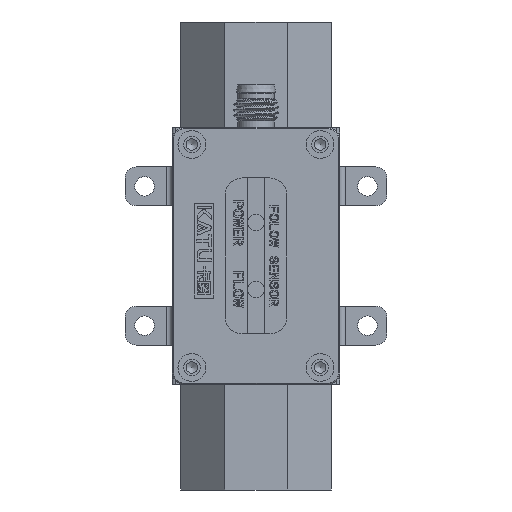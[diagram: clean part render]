
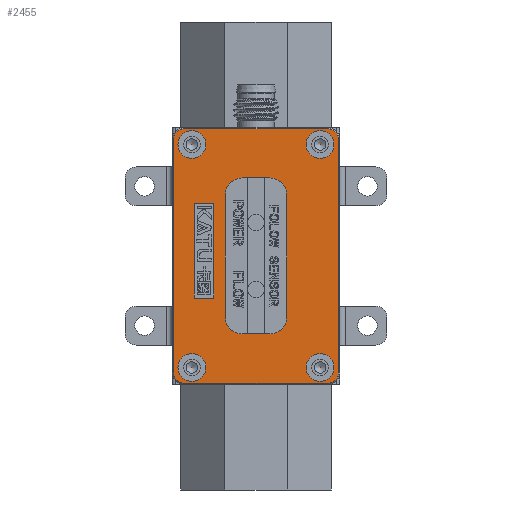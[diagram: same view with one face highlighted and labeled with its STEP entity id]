
A CAD part, front view. The second image highlights one B-rep face of the part: STEP entity #2455.
In plain terms, the highlighted planar face has unit normal (0, -1, 0).
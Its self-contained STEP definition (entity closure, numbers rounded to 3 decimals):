
#937=FACE_BOUND('',#5741,.T.);
#938=FACE_BOUND('',#5742,.T.);
#939=FACE_BOUND('',#5743,.T.);
#940=FACE_BOUND('',#5744,.T.);
#941=FACE_BOUND('',#5745,.T.);
#942=FACE_BOUND('',#5746,.T.);
#943=FACE_BOUND('',#5747,.T.);
#1803=CIRCLE('',#24379,3.);
#1804=CIRCLE('',#24380,3.);
#1805=CIRCLE('',#24381,3.);
#1806=CIRCLE('',#24382,3.);
#1807=CIRCLE('',#24383,1.8);
#1808=CIRCLE('',#24384,1.8);
#1809=CIRCLE('',#24385,1.8);
#1810=CIRCLE('',#24386,1.8);
#1811=CIRCLE('',#24387,2.5);
#1812=CIRCLE('',#24388,2.5);
#1813=CIRCLE('',#24389,2.5);
#1814=CIRCLE('',#24390,2.5);
#2455=ADVANCED_FACE('',(#937,#938,#939,#940,#941,#942,#943),#3701,.F.);
#3701=PLANE('',#24391);
#5741=EDGE_LOOP('',(#8172,#8173,#8174,#8175,#8176,#8177,#8178,#8179));
#5742=EDGE_LOOP('',(#8180,#8181,#8182,#8183,#8184,#8185,#8186,#8187));
#5743=EDGE_LOOP('',(#8188));
#5744=EDGE_LOOP('',(#8189));
#5745=EDGE_LOOP('',(#8190));
#5746=EDGE_LOOP('',(#8191));
#5747=EDGE_LOOP('',(#8192,#8193,#8194,#8195));
#8172=ORIENTED_EDGE('',*,*,#16599,.F.);
#8173=ORIENTED_EDGE('',*,*,#16600,.F.);
#8174=ORIENTED_EDGE('',*,*,#16601,.F.);
#8175=ORIENTED_EDGE('',*,*,#16602,.F.);
#8176=ORIENTED_EDGE('',*,*,#16603,.F.);
#8177=ORIENTED_EDGE('',*,*,#16604,.F.);
#8178=ORIENTED_EDGE('',*,*,#16605,.F.);
#8179=ORIENTED_EDGE('',*,*,#16606,.F.);
#8180=ORIENTED_EDGE('',*,*,#16607,.T.);
#8181=ORIENTED_EDGE('',*,*,#16608,.T.);
#8182=ORIENTED_EDGE('',*,*,#16609,.T.);
#8183=ORIENTED_EDGE('',*,*,#16610,.T.);
#8184=ORIENTED_EDGE('',*,*,#16611,.T.);
#8185=ORIENTED_EDGE('',*,*,#16612,.T.);
#8186=ORIENTED_EDGE('',*,*,#16613,.T.);
#8187=ORIENTED_EDGE('',*,*,#16614,.T.);
#8188=ORIENTED_EDGE('',*,*,#16615,.T.);
#8189=ORIENTED_EDGE('',*,*,#16616,.T.);
#8190=ORIENTED_EDGE('',*,*,#16617,.T.);
#8191=ORIENTED_EDGE('',*,*,#16618,.T.);
#8192=ORIENTED_EDGE('',*,*,#16619,.F.);
#8193=ORIENTED_EDGE('',*,*,#16620,.F.);
#8194=ORIENTED_EDGE('',*,*,#16621,.F.);
#8195=ORIENTED_EDGE('',*,*,#16622,.F.);
#14218=VERTEX_POINT('',#33486);
#14219=VERTEX_POINT('',#33487);
#14220=VERTEX_POINT('',#33489);
#14221=VERTEX_POINT('',#33491);
#14222=VERTEX_POINT('',#33493);
#14223=VERTEX_POINT('',#33495);
#14224=VERTEX_POINT('',#33497);
#14225=VERTEX_POINT('',#33499);
#14226=VERTEX_POINT('',#33502);
#14227=VERTEX_POINT('',#33503);
#14228=VERTEX_POINT('',#33505);
#14229=VERTEX_POINT('',#33507);
#14230=VERTEX_POINT('',#33509);
#14231=VERTEX_POINT('',#33511);
#14232=VERTEX_POINT('',#33513);
#14233=VERTEX_POINT('',#33515);
#14234=VERTEX_POINT('',#33518);
#14235=VERTEX_POINT('',#33520);
#14236=VERTEX_POINT('',#33522);
#14237=VERTEX_POINT('',#33524);
#14238=VERTEX_POINT('',#33526);
#14239=VERTEX_POINT('',#33527);
#14240=VERTEX_POINT('',#33529);
#14241=VERTEX_POINT('',#33531);
#16599=EDGE_CURVE('',#14218,#14219,#19721,.T.);
#16600=EDGE_CURVE('',#14220,#14218,#1803,.T.);
#16601=EDGE_CURVE('',#14221,#14220,#19722,.T.);
#16602=EDGE_CURVE('',#14222,#14221,#1804,.T.);
#16603=EDGE_CURVE('',#14223,#14222,#19723,.T.);
#16604=EDGE_CURVE('',#14224,#14223,#1805,.T.);
#16605=EDGE_CURVE('',#14225,#14224,#19724,.T.);
#16606=EDGE_CURVE('',#14219,#14225,#1806,.T.);
#16607=EDGE_CURVE('',#14226,#14227,#19725,.T.);
#16608=EDGE_CURVE('',#14227,#14228,#1807,.T.);
#16609=EDGE_CURVE('',#14228,#14229,#19726,.T.);
#16610=EDGE_CURVE('',#14229,#14230,#1808,.T.);
#16611=EDGE_CURVE('',#14230,#14231,#19727,.T.);
#16612=EDGE_CURVE('',#14231,#14232,#1809,.T.);
#16613=EDGE_CURVE('',#14232,#14233,#19728,.T.);
#16614=EDGE_CURVE('',#14233,#14226,#1810,.T.);
#16615=EDGE_CURVE('',#14234,#14234,#1811,.T.);
#16616=EDGE_CURVE('',#14235,#14235,#1812,.T.);
#16617=EDGE_CURVE('',#14236,#14236,#1813,.T.);
#16618=EDGE_CURVE('',#14237,#14237,#1814,.T.);
#16619=EDGE_CURVE('',#14238,#14239,#19729,.T.);
#16620=EDGE_CURVE('',#14240,#14238,#19730,.T.);
#16621=EDGE_CURVE('',#14241,#14240,#19731,.T.);
#16622=EDGE_CURVE('',#14239,#14241,#19732,.T.);
#19721=LINE('',#33485,#22085);
#19722=LINE('',#33490,#22086);
#19723=LINE('',#33494,#22087);
#19724=LINE('',#33498,#22088);
#19725=LINE('',#33501,#22089);
#19726=LINE('',#33506,#22090);
#19727=LINE('',#33510,#22091);
#19728=LINE('',#33514,#22092);
#19729=LINE('',#33525,#22093);
#19730=LINE('',#33528,#22094);
#19731=LINE('',#33530,#22095);
#19732=LINE('',#33532,#22096);
#22085=VECTOR('',#26899,1.);
#22086=VECTOR('',#26902,1.);
#22087=VECTOR('',#26905,1.);
#22088=VECTOR('',#26908,1.);
#22089=VECTOR('',#26911,1.);
#22090=VECTOR('',#26914,1.);
#22091=VECTOR('',#26917,1.);
#22092=VECTOR('',#26920,1.);
#22093=VECTOR('',#26931,1.);
#22094=VECTOR('',#26932,1.);
#22095=VECTOR('',#26933,1.);
#22096=VECTOR('',#26934,1.);
#24379=AXIS2_PLACEMENT_3D('',#33488,#26900,#26901);
#24380=AXIS2_PLACEMENT_3D('',#33492,#26903,#26904);
#24381=AXIS2_PLACEMENT_3D('',#33496,#26906,#26907);
#24382=AXIS2_PLACEMENT_3D('',#33500,#26909,#26910);
#24383=AXIS2_PLACEMENT_3D('',#33504,#26912,#26913);
#24384=AXIS2_PLACEMENT_3D('',#33508,#26915,#26916);
#24385=AXIS2_PLACEMENT_3D('',#33512,#26918,#26919);
#24386=AXIS2_PLACEMENT_3D('',#33516,#26921,#26922);
#24387=AXIS2_PLACEMENT_3D('',#33517,#26923,#26924);
#24388=AXIS2_PLACEMENT_3D('',#33519,#26925,#26926);
#24389=AXIS2_PLACEMENT_3D('',#33521,#26927,#26928);
#24390=AXIS2_PLACEMENT_3D('',#33523,#26929,#26930);
#24391=AXIS2_PLACEMENT_3D('',#33533,#26935,#26936);
#26899=DIRECTION('',(0.,0.,-1.));
#26900=DIRECTION('',(0.,-1.,0.));
#26901=DIRECTION('',(0.,0.,1.));
#26902=DIRECTION('',(-1.,0.,0.));
#26903=DIRECTION('',(0.,-1.,0.));
#26904=DIRECTION('',(0.,0.,1.));
#26905=DIRECTION('',(0.,0.,1.));
#26906=DIRECTION('',(0.,-1.,0.));
#26907=DIRECTION('',(0.,0.,1.));
#26908=DIRECTION('',(1.,0.,0.));
#26909=DIRECTION('',(0.,-1.,0.));
#26910=DIRECTION('',(0.,0.,1.));
#26911=DIRECTION('',(0.,0.,-1.));
#26912=DIRECTION('',(0.,-1.,0.));
#26913=DIRECTION('',(0.,0.,1.));
#26914=DIRECTION('',(1.,0.,0.));
#26915=DIRECTION('',(0.,-1.,0.));
#26916=DIRECTION('',(0.,0.,1.));
#26917=DIRECTION('',(0.,0.,1.));
#26918=DIRECTION('',(0.,-1.,0.));
#26919=DIRECTION('',(0.,0.,1.));
#26920=DIRECTION('',(-1.,0.,0.));
#26921=DIRECTION('',(0.,-1.,0.));
#26922=DIRECTION('',(0.,0.,1.));
#26923=DIRECTION('',(0.,1.,0.));
#26924=DIRECTION('',(0.,0.,1.));
#26925=DIRECTION('',(0.,1.,0.));
#26926=DIRECTION('',(0.,0.,1.));
#26927=DIRECTION('',(0.,1.,0.));
#26928=DIRECTION('',(0.,0.,1.));
#26929=DIRECTION('',(0.,1.,0.));
#26930=DIRECTION('',(0.,0.,1.));
#26931=DIRECTION('',(0.,0.,-1.));
#26932=DIRECTION('',(-1.,0.,0.));
#26933=DIRECTION('',(0.,0.,1.));
#26934=DIRECTION('',(1.,0.,0.));
#26935=DIRECTION('',(0.,1.,0.));
#26936=DIRECTION('',(0.,0.,1.));
#33485=CARTESIAN_POINT('',(-3.,-33.,21.));
#33486=CARTESIAN_POINT('',(-3.,-33.,21.));
#33487=CARTESIAN_POINT('',(-3.,-33.,-1.));
#33488=CARTESIAN_POINT('',(0.,-33.,21.));
#33489=CARTESIAN_POINT('',(0.,-33.,24.));
#33490=CARTESIAN_POINT('',(3.5,-33.,24.));
#33491=CARTESIAN_POINT('',(5.,-33.,24.));
#33492=CARTESIAN_POINT('',(5.,-33.,21.));
#33493=CARTESIAN_POINT('',(8.,-33.,21.));
#33494=CARTESIAN_POINT('',(8.,-33.,-1.));
#33495=CARTESIAN_POINT('',(8.,-33.,-1.));
#33496=CARTESIAN_POINT('',(5.,-33.,-1.));
#33497=CARTESIAN_POINT('',(5.,-33.,-4.));
#33498=CARTESIAN_POINT('',(1.5,-33.,-4.));
#33499=CARTESIAN_POINT('',(0.,-33.,-4.));
#33500=CARTESIAN_POINT('',(0.,-33.,-1.));
#33501=CARTESIAN_POINT('',(-12.3,-33.,-11.));
#33502=CARTESIAN_POINT('',(-12.3,-33.,31.));
#33503=CARTESIAN_POINT('',(-12.3,-33.,-11.));
#33504=CARTESIAN_POINT('',(-10.5,-33.,-11.));
#33505=CARTESIAN_POINT('',(-10.5,-33.,-12.8));
#33506=CARTESIAN_POINT('',(15.5,-33.,-12.8));
#33507=CARTESIAN_POINT('',(15.5,-33.,-12.8));
#33508=CARTESIAN_POINT('',(15.5,-33.,-11.));
#33509=CARTESIAN_POINT('',(17.3,-33.,-11.));
#33510=CARTESIAN_POINT('',(17.3,-33.,31.));
#33511=CARTESIAN_POINT('',(17.3,-33.,31.));
#33512=CARTESIAN_POINT('',(15.5,-33.,31.));
#33513=CARTESIAN_POINT('',(15.5,-33.,32.8));
#33514=CARTESIAN_POINT('',(-10.5,-33.,32.8));
#33515=CARTESIAN_POINT('',(-10.5,-33.,32.8));
#33516=CARTESIAN_POINT('',(-10.5,-33.,31.));
#33517=CARTESIAN_POINT('',(-9.,-33.,30.));
#33518=CARTESIAN_POINT('',(-9.,-33.,32.5));
#33519=CARTESIAN_POINT('',(-9.,-33.,-10.));
#33520=CARTESIAN_POINT('',(-9.,-33.,-7.5));
#33521=CARTESIAN_POINT('',(14.,-33.,-10.));
#33522=CARTESIAN_POINT('',(14.,-33.,-7.5));
#33523=CARTESIAN_POINT('',(14.,-33.,30.));
#33524=CARTESIAN_POINT('',(14.,-33.,32.5));
#33525=CARTESIAN_POINT('',(-8.54,-33.,19.457));
#33526=CARTESIAN_POINT('',(-8.54,-33.,19.457));
#33527=CARTESIAN_POINT('',(-8.54,-33.,2.457));
#33528=CARTESIAN_POINT('',(-5.04,-33.,19.457));
#33529=CARTESIAN_POINT('',(-5.04,-33.,19.457));
#33530=CARTESIAN_POINT('',(-5.04,-33.,2.457));
#33531=CARTESIAN_POINT('',(-5.04,-33.,2.457));
#33532=CARTESIAN_POINT('',(-8.54,-33.,2.457));
#33533=CARTESIAN_POINT('',(-10.5,-33.,-11.));
